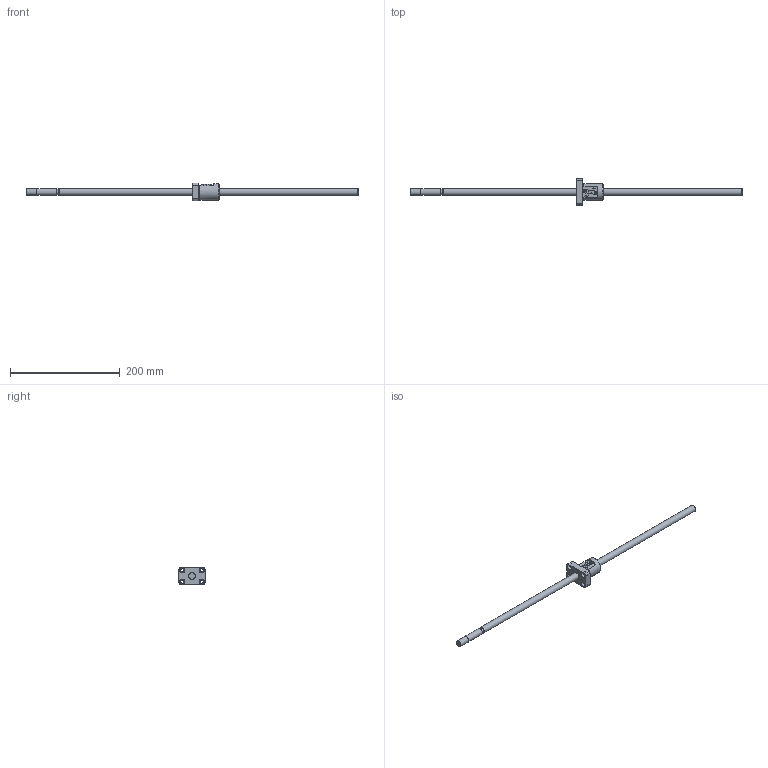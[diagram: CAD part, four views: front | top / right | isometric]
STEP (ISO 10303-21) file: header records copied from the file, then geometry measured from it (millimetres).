
FILE_DESCRIPTION((''),'2;1');
FILE_NAME('D:\製品 (図面)\カタログ用3D\ネジ関連\STEP形式\KBS(C)\KBS(C)1210-605.stp','2010-06-02T09:20:22',('Tsuchiya'),(''),'Autodesk Inventor 10','Autodesk Inventor 10','');
FILE_SCHEMA(('AUTOMOTIVE_DESIGN { 1 0 10303 214 1 1 1 1 }'));
Length unit declared in the file: millimetre
Products named in the file (3): KBS(C)1210-605; KBS(C)1210-6051; KBS(C)1210-6052
Assembly tree (2 placements, depth 2):
  KBS(C)1210-605
    KBS(C)1210-6051
    KBS(C)1210-6052
Bounding box: 605 x 48 x 32 mm (x, y, z)
Volume: 102817 mm3; surface area: 34487.5 mm2
Topology: 2 solids, 2 shells, 101 faces, 255 edges, 168 vertices
Faces by surface type: plane 42, cylinder 34, bspline 20, cone 3, torus 2
Full cylindrical faces by diameter (mm): 3.2 x1, 5.5 x4, 5.6 x1, 9.5 x5, 11.7 x1, 12 x3, 14 x2, 30 x1
Entity records: 3253 total; most frequent: CARTESIAN_POINT 916, ORIENTED_EDGE 444, DIRECTION 440, EDGE_CURVE 222, AXIS2_PLACEMENT_3D 164, VERTEX_POINT 162, EDGE_LOOP 154, VECTOR 112
